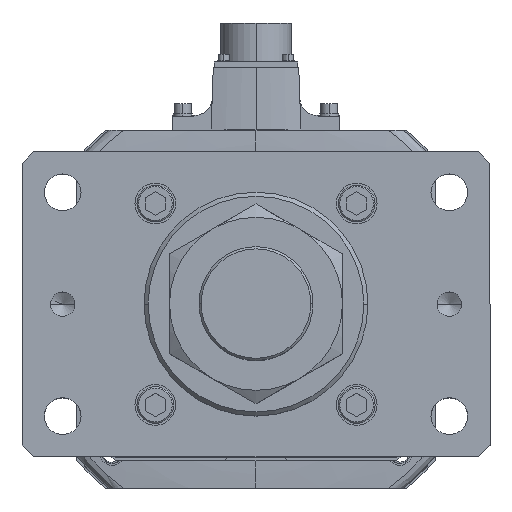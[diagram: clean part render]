
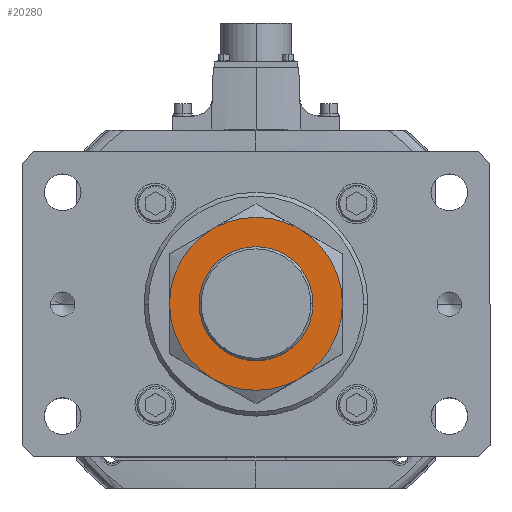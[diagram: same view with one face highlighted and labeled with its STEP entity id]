
A CAD part, top view. The second image highlights one B-rep face of the part: STEP entity #20280.
In plain terms, the highlighted planar face has unit normal (0, 0, 1).
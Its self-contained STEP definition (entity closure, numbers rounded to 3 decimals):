
#312 = CARTESIAN_POINT ( 'NONE',  ( 0., 0., 34. ) ) ;
#850 = CARTESIAN_POINT ( 'NONE',  ( -21.25, -36.806, 34. ) ) ;
#1089 = CARTESIAN_POINT ( 'NONE',  ( -21.25, 36.806, 34. ) ) ;
#1820 = AXIS2_PLACEMENT_3D ( 'NONE', #6904, #45631, #19737 ) ;
#2058 = CARTESIAN_POINT ( 'NONE',  ( 0., 0., 34. ) ) ;
#2717 = CARTESIAN_POINT ( 'NONE',  ( -28., 0., 34. ) ) ;
#4574 = DIRECTION ( 'NONE',  ( 1., 0., 0. ) ) ;
#4829 = EDGE_CURVE ( 'NONE', #5363, #53814, #33067, .T. ) ;
#5006 = EDGE_CURVE ( 'NONE', #53814, #5363, #37830, .T. ) ;
#5244 = EDGE_CURVE ( 'NONE', #29887, #37701, #24494, .T. ) ;
#5363 = VERTEX_POINT ( 'NONE', #2717 ) ;
#6499 = DIRECTION ( 'NONE',  ( 0., 0., -1. ) ) ;
#6904 = CARTESIAN_POINT ( 'NONE',  ( 0., 0., 34. ) ) ;
#7041 = AXIS2_PLACEMENT_3D ( 'NONE', #44481, #30660, #19135 ) ;
#7126 = AXIS2_PLACEMENT_3D ( 'NONE', #27478, #31587, #14295 ) ;
#7356 = ORIENTED_EDGE ( 'NONE', *, *, #5244, .F. ) ;
#8605 = CARTESIAN_POINT ( 'NONE',  ( 21.25, 36.806, 34. ) ) ;
#10278 = FACE_OUTER_BOUND ( 'NONE', #52877, .T. ) ;
#10965 = ORIENTED_EDGE ( 'NONE', *, *, #27227, .F. ) ;
#14295 = DIRECTION ( 'NONE',  ( 1., 0., 0. ) ) ;
#14558 = CARTESIAN_POINT ( 'NONE',  ( 0., 0., 34. ) ) ;
#16221 = DIRECTION ( 'NONE',  ( 1., 0., 0. ) ) ;
#16402 = VERTEX_POINT ( 'NONE', #17911 ) ;
#17086 = CIRCLE ( 'NONE', #18372, 42.5 ) ;
#17317 = VERTEX_POINT ( 'NONE', #850 ) ;
#17911 = CARTESIAN_POINT ( 'NONE',  ( -42.5, 0., 34. ) ) ;
#18372 = AXIS2_PLACEMENT_3D ( 'NONE', #14558, #35757, #53043 ) ;
#19123 = ORIENTED_EDGE ( 'NONE', *, *, #52269, .F. ) ;
#19135 = DIRECTION ( 'NONE',  ( 1., 0., 0. ) ) ;
#19737 = DIRECTION ( 'NONE',  ( 1., 0., 0. ) ) ;
#20280 = ADVANCED_FACE ( 'NONE', ( #10278, #24239 ), #41938, .T. ) ;
#21398 = AXIS2_PLACEMENT_3D ( 'NONE', #312, #43505, #4574 ) ;
#24239 = FACE_BOUND ( 'NONE', #46616, .T. ) ;
#24494 = CIRCLE ( 'NONE', #7041, 42.5 ) ;
#25690 = EDGE_CURVE ( 'NONE', #17317, #16402, #46432, .T. ) ;
#27227 = EDGE_CURVE ( 'NONE', #37701, #42803, #40325, .T. ) ;
#27354 = DIRECTION ( 'NONE',  ( 1., 0., 0. ) ) ;
#27478 = CARTESIAN_POINT ( 'NONE',  ( 0., 0., 34. ) ) ;
#28046 = DIRECTION ( 'NONE',  ( 0., 0., 1. ) ) ;
#28942 = VERTEX_POINT ( 'NONE', #1089 ) ;
#29743 = CARTESIAN_POINT ( 'NONE',  ( 28., 0., 34. ) ) ;
#29887 = VERTEX_POINT ( 'NONE', #8605 ) ;
#30660 = DIRECTION ( 'NONE',  ( 0., 0., -1. ) ) ;
#31587 = DIRECTION ( 'NONE',  ( 0., 0., -1. ) ) ;
#31605 = ORIENTED_EDGE ( 'NONE', *, *, #25690, .F. ) ;
#31609 = DIRECTION ( 'NONE',  ( 1., 0., 0. ) ) ;
#32520 = DIRECTION ( 'NONE',  ( 1., 0., 0. ) ) ;
#32740 = CIRCLE ( 'NONE', #7126, 42.5 ) ;
#32996 = ORIENTED_EDGE ( 'NONE', *, *, #4829, .F. ) ;
#33067 = CIRCLE ( 'NONE', #52997, 28. ) ;
#33755 = AXIS2_PLACEMENT_3D ( 'NONE', #36443, #28046, #32520 ) ;
#35757 = DIRECTION ( 'NONE',  ( 0., 0., -1. ) ) ;
#36079 = DIRECTION ( 'NONE',  ( 0., 0., 1. ) ) ;
#36443 = CARTESIAN_POINT ( 'NONE',  ( 0., 0., 34. ) ) ;
#36583 = CARTESIAN_POINT ( 'NONE',  ( 21.25, -36.806, 34. ) ) ;
#36606 = CARTESIAN_POINT ( 'NONE',  ( 0., 0., 34. ) ) ;
#37451 = CARTESIAN_POINT ( 'NONE',  ( 0., 0., 34. ) ) ;
#37701 = VERTEX_POINT ( 'NONE', #44689 ) ;
#37830 = CIRCLE ( 'NONE', #33755, 28. ) ;
#38277 = AXIS2_PLACEMENT_3D ( 'NONE', #36606, #6499, #31609 ) ;
#40325 = CIRCLE ( 'NONE', #38277, 42.5 ) ;
#40807 = ORIENTED_EDGE ( 'NONE', *, *, #5006, .F. ) ;
#41938 = PLANE ( 'NONE',  #52609 ) ;
#42803 = VERTEX_POINT ( 'NONE', #36583 ) ;
#43108 = EDGE_CURVE ( 'NONE', #42803, #17317, #53745, .T. ) ;
#43206 = ORIENTED_EDGE ( 'NONE', *, *, #43108, .F. ) ;
#43505 = DIRECTION ( 'NONE',  ( 0., 0., -1. ) ) ;
#44481 = CARTESIAN_POINT ( 'NONE',  ( 0., 0., 34. ) ) ;
#44689 = CARTESIAN_POINT ( 'NONE',  ( 42.5, 0., 34. ) ) ;
#45631 = DIRECTION ( 'NONE',  ( 0., 0., -1. ) ) ;
#46432 = CIRCLE ( 'NONE', #1820, 42.5 ) ;
#46616 = EDGE_LOOP ( 'NONE', ( #32996, #40807 ) ) ;
#48129 = EDGE_CURVE ( 'NONE', #16402, #28942, #17086, .T. ) ;
#50446 = DIRECTION ( 'NONE',  ( 0., 0., 1. ) ) ;
#51347 = ORIENTED_EDGE ( 'NONE', *, *, #48129, .F. ) ;
#52269 = EDGE_CURVE ( 'NONE', #28942, #29887, #32740, .T. ) ;
#52609 = AXIS2_PLACEMENT_3D ( 'NONE', #37451, #50446, #16221 ) ;
#52877 = EDGE_LOOP ( 'NONE', ( #10965, #7356, #19123, #51347, #31605, #43206 ) ) ;
#52997 = AXIS2_PLACEMENT_3D ( 'NONE', #2058, #36079, #27354 ) ;
#53043 = DIRECTION ( 'NONE',  ( -1., 0., 0. ) ) ;
#53745 = CIRCLE ( 'NONE', #21398, 42.5 ) ;
#53814 = VERTEX_POINT ( 'NONE', #29743 ) ;
